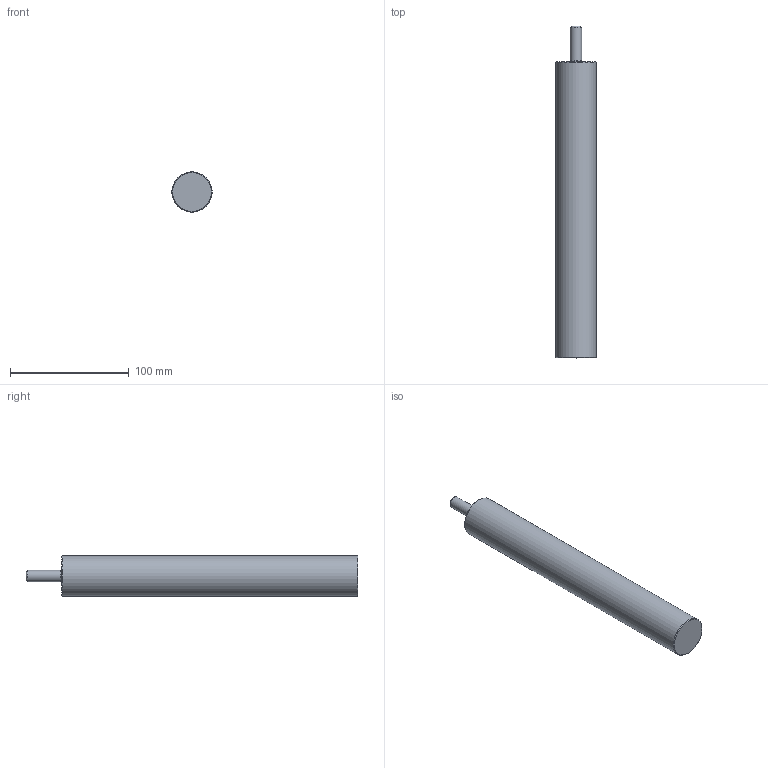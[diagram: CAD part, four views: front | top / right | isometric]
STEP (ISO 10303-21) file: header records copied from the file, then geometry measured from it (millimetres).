
FILE_DESCRIPTION(/* description */ (''),/* implementation_level */ '2;1');
FILE_NAME(/* name */ 'BM01-34D-250L.step',/* time_stamp */ '2023-10-24T13:47:50+09:00',/* author */ (''),/* organization */ (''),/* preprocessor_version */ 'ST-DEVELOPER v20',/* originating_system */ 'Autodesk Translation Framework v12.14.0.127',/* authorisation */ '');
FILE_SCHEMA (('AUTOMOTIVE_DESIGN { 1 0 10303 214 3 1 1 }'));
Length unit declared in the file: millimetre
Products named in the file (1): BM01-34D-250L
Bounding box: 34 x 280 x 34 mm (x, y, z)
Volume: 229232.2 mm3; surface area: 29352.2 mm2
Topology: 1 solids, 1 shells, 9 faces, 15 edges, 9 vertices
Faces by surface type: cone 3, plane 3, cylinder 2, torus 1
Full cylindrical faces by diameter (mm): 9.85 x1, 34 x1
Entity records: 255 total; most frequent: DIRECTION 45, CARTESIAN_POINT 34, ORIENTED_EDGE 30, AXIS2_PLACEMENT_3D 20, EDGE_CURVE 15, EDGE_LOOP 10, CIRCLE 10, FACE_OUTER_BOUND 9
